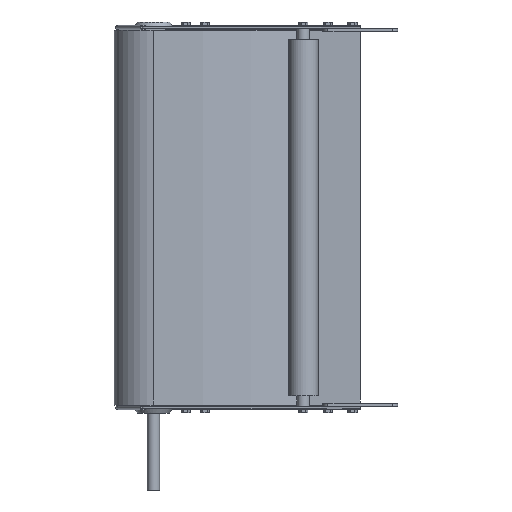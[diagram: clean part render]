
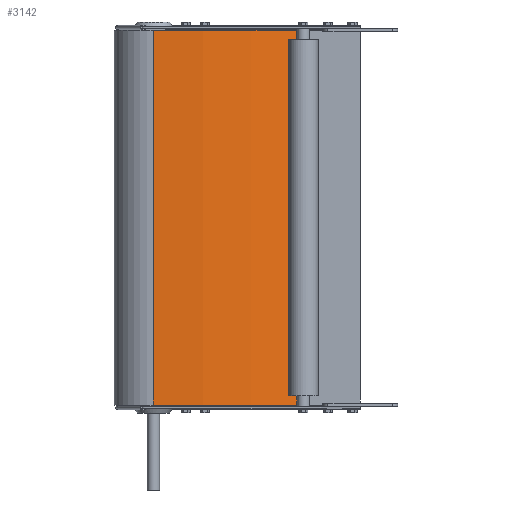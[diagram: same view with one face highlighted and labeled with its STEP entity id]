
A CAD part, front view. The second image highlights one B-rep face of the part: STEP entity #3142.
In plain terms, the highlighted cylindrical face has radius 508.8 mm (diameter 1017.6 mm), a partial arc.
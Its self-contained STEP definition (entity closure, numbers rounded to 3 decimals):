
#19 = VECTOR ( 'NONE', #6461, 1000. ) ;
#120 = AXIS2_PLACEMENT_3D ( 'NONE', #9343, #5660, #8618 ) ;
#177 = FACE_OUTER_BOUND ( 'NONE', #8296, .T. ) ;
#336 = ORIENTED_EDGE ( 'NONE', *, *, #5061, .F. ) ;
#1007 = DIRECTION ( 'NONE',  ( 1., 0., 0. ) ) ;
#1021 = VERTEX_POINT ( 'NONE', #7791 ) ;
#1085 = EDGE_CURVE ( 'NONE', #1021, #5396, #9282, .T. ) ;
#1135 = CARTESIAN_POINT ( 'NONE',  ( 296.602, -71.429, -304.8 ) ) ;
#1353 = CARTESIAN_POINT ( 'NONE',  ( 296.602, -71.429, 304.8 ) ) ;
#1528 = AXIS2_PLACEMENT_3D ( 'NONE', #5350, #5258, #1007 ) ;
#1695 = CARTESIAN_POINT ( 'NONE',  ( 64.602, 381.399, 304.8 ) ) ;
#2395 = ORIENTED_EDGE ( 'NONE', *, *, #1085, .T. ) ;
#3142 = ADVANCED_FACE ( 'NONE', ( #177 ), #7680, .T. ) ;
#3154 = DIRECTION ( 'NONE',  ( -1., 0., 0. ) ) ;
#3477 = LINE ( 'NONE', #1135, #19 ) ;
#3531 = VERTEX_POINT ( 'NONE', #6848 ) ;
#3539 = LINE ( 'NONE', #8015, #6257 ) ;
#4281 = EDGE_CURVE ( 'NONE', #5396, #6851, #3477, .T. ) ;
#5061 = EDGE_CURVE ( 'NONE', #1021, #3531, #3539, .T. ) ;
#5258 = DIRECTION ( 'NONE',  ( 0., 0., 1. ) ) ;
#5350 = CARTESIAN_POINT ( 'NONE',  ( 64.602, 381.399, -304.8 ) ) ;
#5396 = VERTEX_POINT ( 'NONE', #6266 ) ;
#5660 = DIRECTION ( 'NONE',  ( 0., 0., 1. ) ) ;
#5691 = DIRECTION ( 'NONE',  ( 0., 0., 1. ) ) ;
#5946 = AXIS2_PLACEMENT_3D ( 'NONE', #1695, #6232, #3154 ) ;
#6232 = DIRECTION ( 'NONE',  ( 0., 0., 1. ) ) ;
#6257 = VECTOR ( 'NONE', #5691, 1000. ) ;
#6266 = CARTESIAN_POINT ( 'NONE',  ( 296.602, -71.429, -304.8 ) ) ;
#6461 = DIRECTION ( 'NONE',  ( 0., 0., 1. ) ) ;
#6735 = ORIENTED_EDGE ( 'NONE', *, *, #6737, .F. ) ;
#6737 = EDGE_CURVE ( 'NONE', #3531, #6851, #6877, .T. ) ;
#6848 = CARTESIAN_POINT ( 'NONE',  ( 63.571, -127.4, 304.8 ) ) ;
#6851 = VERTEX_POINT ( 'NONE', #1353 ) ;
#6877 = CIRCLE ( 'NONE', #5946, 508.8 ) ;
#7680 = CYLINDRICAL_SURFACE ( 'NONE', #1528, 508.8 ) ;
#7791 = CARTESIAN_POINT ( 'NONE',  ( 63.571, -127.4, -304.8 ) ) ;
#7818 = ORIENTED_EDGE ( 'NONE', *, *, #4281, .T. ) ;
#8015 = CARTESIAN_POINT ( 'NONE',  ( 63.571, -127.4, -304.8 ) ) ;
#8296 = EDGE_LOOP ( 'NONE', ( #6735, #336, #2395, #7818 ) ) ;
#8618 = DIRECTION ( 'NONE',  ( -1., 0., 0. ) ) ;
#9282 = CIRCLE ( 'NONE', #120, 508.8 ) ;
#9343 = CARTESIAN_POINT ( 'NONE',  ( 64.602, 381.399, -304.8 ) ) ;
